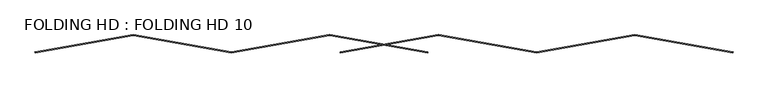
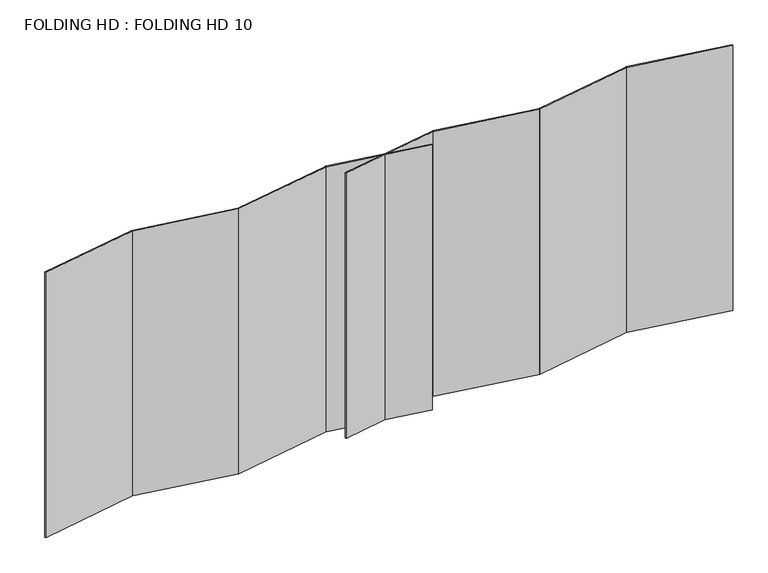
"""IFC4 building model written with IfcOpenShell, lengths in millimetres: plate geometry, FOLDING HD : FOLDING HD 10."""

from ifc_helpers import new_model, si_unit, origin, origin_with_axes, place, context, project, spatial, polyline, outline, extrude, source, transform, mapped, element, save


def folding_hd_folding_hd_10_cf69813b(model_context):
    return source(origin(), model_context, "Body", "SweptSolid", [
        extrude(outline(polyline([(2263.6730223, 156.2833599), (1377.3460446, 0.0), (1375.6095628, 9.8480775), (2261.9365405, 166.1314375), (2263.6730223, 156.2833599)])), origin_with_axes(), (0.0, 0.0, 1.0), 2570.0),
        extrude(outline(polyline([(2263.6730223, 156.2833599), (2265.4095041, 166.1314374), (3151.7364818, 9.8480775), (3150.0, 0.0), (2263.6730223, 156.2833599)])), origin_with_axes(), (0.0, 0.0, 1.0), 2570.0),
        extrude(outline(polyline([(491.0190669, 156.2833599), (492.7555486, 166.1314374), (1379.0825264, 9.8480775), (1377.3460446, 0.0), (491.0190669, 156.2833599)])), origin_with_axes(), (0.0, 0.0, 1.0), 2570.0),
        extrude(outline(polyline([(491.0190669, 156.2833599), (-395.3079108, 0.0), (-397.0443926, 9.8480775), (489.2825851, 166.1314374), (491.0190669, 156.2833599)])), origin_with_axes(), (0.0, 0.0, 1.0), 2570.0),
        extrude(outline(polyline([(-491.0190669, 156.2833599), (-1377.3460446, 0.0), (-1379.0825264, 9.8480775), (-492.7555486, 166.1314374), (-491.0190669, 156.2833599)])), origin_with_axes(), (0.0, 0.0, 1.0), 2570.0),
        extrude(outline(polyline([(-491.0190669, 156.2833599), (-489.2825851, 166.1314374), (397.0443926, 9.8480775), (395.3079108, 0.0), (-491.0190669, 156.2833599)])), origin_with_axes(), (0.0, 0.0, 1.0), 2570.0),
        extrude(outline(polyline([(-2263.6730223, 156.2833599), (-2261.9365405, 166.1314374), (-1375.6095628, 9.8480775), (-1377.3460446, 0.0), (-2263.6730223, 156.2833599)])), origin_with_axes(), (0.0, 0.0, 1.0), 2570.0),
        extrude(outline(polyline([(-2263.6730223, 156.2833599), (-3150.0, 0.0), (-3151.7364818, 9.8480775), (-2265.4095041, 166.1314374), (-2263.6730223, 156.2833599)])), origin_with_axes(), (0.0, 0.0, 1.0), 2570.0),
    ])


if __name__ == "__main__":
    model = new_model("IFC4")
    model_context = context("Model", 3, world=origin())
    ifc_project = project(units=[si_unit("LENGTHUNIT", "METRE", prefix="MILLI")], contexts=[model_context])
    site = spatial("IfcSite", under=ifc_project)
    building = spatial("IfcBuilding", under=site)
    placement = place(None, origin())
    folding_hd_folding_hd_10_shape = folding_hd_folding_hd_10_cf69813b(model_context)
    element("IfcPlate", 1, ObjectType="FOLDING HD : FOLDING HD 10", at=placement, inside=building, context=model_context, shape_type="MappedRepresentation", body=[
        mapped(folding_hd_folding_hd_10_shape, transform((0.0, 0.0, 0.0), x_axis=(1.0, 0.0, 0.0), y_axis=(0.0, 1.0, 0.0), z_axis=(0.0, 0.0, 1.0))),
    ])
    save(model, "model.ifc")
